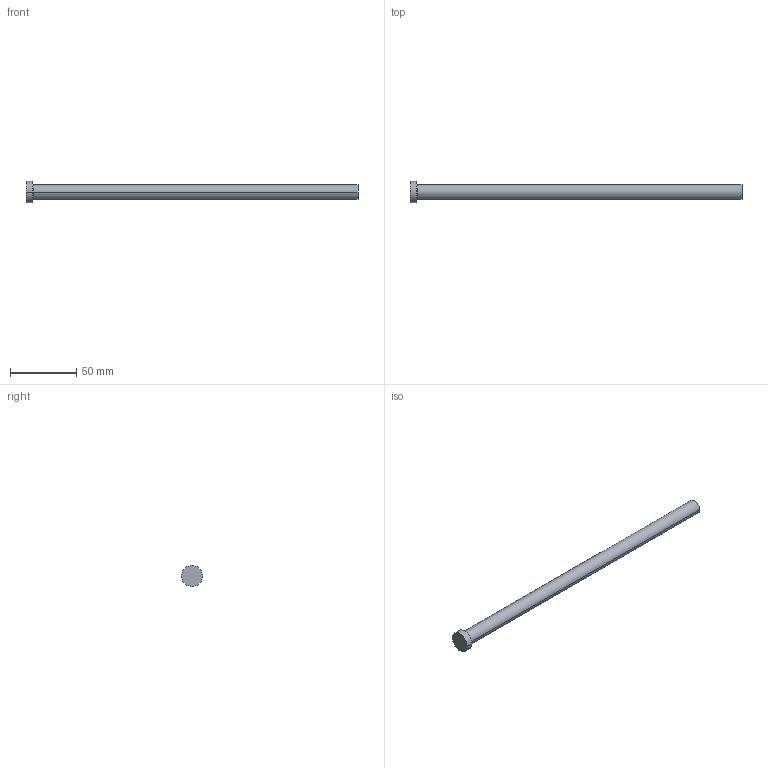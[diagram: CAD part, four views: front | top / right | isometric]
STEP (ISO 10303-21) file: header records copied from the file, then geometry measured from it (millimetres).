
FILE_DESCRIPTION (( 'STEP AP214' ), '1' );
FILE_NAME ('A-11x250.STEP', '2020-05-29T16:05:41', ( 'August' ), ( '' ), 'SwSTEP 2.0', 'SolidWorks 2018', '' );
FILE_SCHEMA (( 'AUTOMOTIVE_DESIGN' ));
Length unit declared in the file: millimetre
Products named in the file (1): A-11x250
Bounding box: 250 x 16 x 16 mm (x, y, z)
Volume: 24290.3 mm3; surface area: 9112.7 mm2
Topology: 1 solids, 1 shells, 9 faces, 16 edges, 10 vertices
Faces by surface type: cylinder 4, plane 3, torus 2
Entity records: 260 total; most frequent: DIRECTION 48, CARTESIAN_POINT 36, ORIENTED_EDGE 32, AXIS2_PLACEMENT_3D 22, EDGE_CURVE 16, CIRCLE 12, VERTEX_POINT 10, EDGE_LOOP 10
